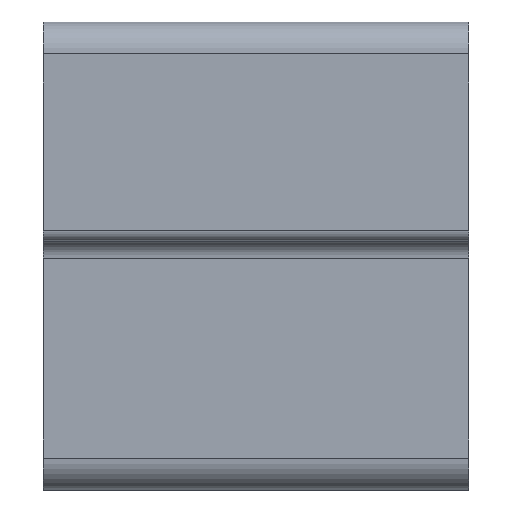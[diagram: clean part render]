
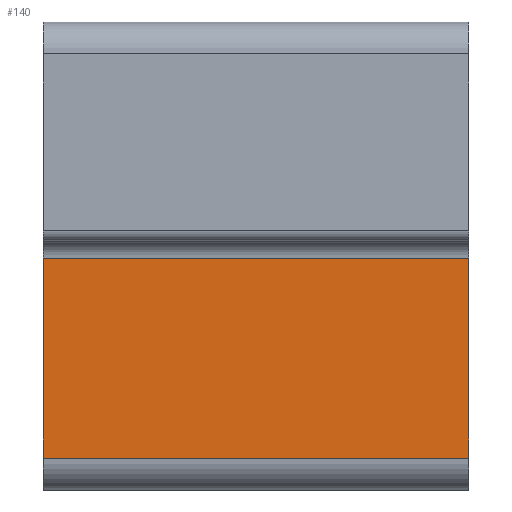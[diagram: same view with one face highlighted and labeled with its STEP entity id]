
A CAD part, left-side view. The second image highlights one B-rep face of the part: STEP entity #140.
In plain terms, the highlighted planar face has unit normal (-1, 0, 0).
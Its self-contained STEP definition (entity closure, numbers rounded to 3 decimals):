
#140=ADVANCED_FACE('',(#268),#269,.T.);
#268=FACE_OUTER_BOUND('',#385,.T.);
#269=PLANE('',#386);
#385=EDGE_LOOP('',(#625,#626,#627,#628));
#386=AXIS2_PLACEMENT_3D('',#629,#630,#631);
#625=ORIENTED_EDGE('',*,*,#848,.T.);
#626=ORIENTED_EDGE('',*,*,#849,.F.);
#627=ORIENTED_EDGE('',*,*,#850,.F.);
#628=ORIENTED_EDGE('',*,*,#845,.T.);
#629=CARTESIAN_POINT('',(-4.,10.0,-5.5));
#630=DIRECTION('',(-1.0,0.0,0.0));
#631=DIRECTION('',(0.0,0.0,-1.0));
#845=EDGE_CURVE('',#1031,#1029,#1032,.T.);
#848=EDGE_CURVE('',#1029,#1035,#1036,.T.);
#849=EDGE_CURVE('',#1037,#1035,#1038,.T.);
#850=EDGE_CURVE('',#1031,#1037,#1039,.T.);
#1029=VERTEX_POINT('',#1277);
#1031=VERTEX_POINT('',#1279);
#1032=LINE('',#1280,#1281);
#1035=VERTEX_POINT('',#1284);
#1036=LINE('',#1285,#1286);
#1037=VERTEX_POINT('',#1287);
#1038=LINE('',#1288,#1289);
#1039=LINE('',#1290,#1291);
#1277=CARTESIAN_POINT('',(-4.,-10.0,-10.2));
#1279=CARTESIAN_POINT('',(-4.,10.0,-10.2));
#1280=CARTESIAN_POINT('',(-4.,10.0,-10.2));
#1281=VECTOR('',#1457,1.0);
#1284=CARTESIAN_POINT('',(-4.,-10.0,-0.8));
#1285=CARTESIAN_POINT('',(-4.,-10.0,-10.2));
#1286=VECTOR('',#1461,1.0);
#1287=CARTESIAN_POINT('',(-4.,10.0,-0.8));
#1288=CARTESIAN_POINT('',(-4.,10.0,-0.8));
#1289=VECTOR('',#1462,1.0);
#1290=CARTESIAN_POINT('',(-4.,10.0,-10.2));
#1291=VECTOR('',#1463,1.0);
#1457=DIRECTION('',(0.0,-1.0,0.0));
#1461=DIRECTION('',(0.0,0.0,1.0));
#1462=DIRECTION('',(0.0,-1.0,0.0));
#1463=DIRECTION('',(0.0,0.0,1.0));
